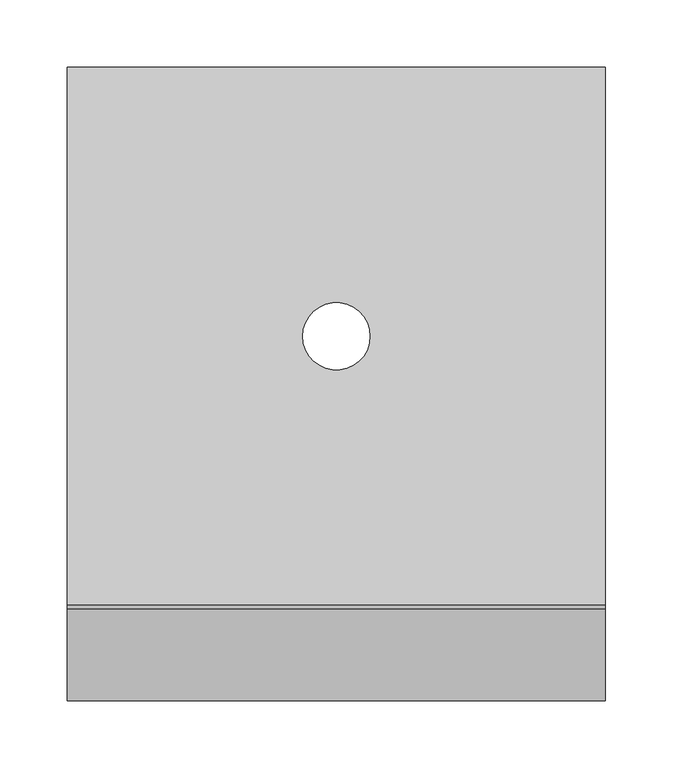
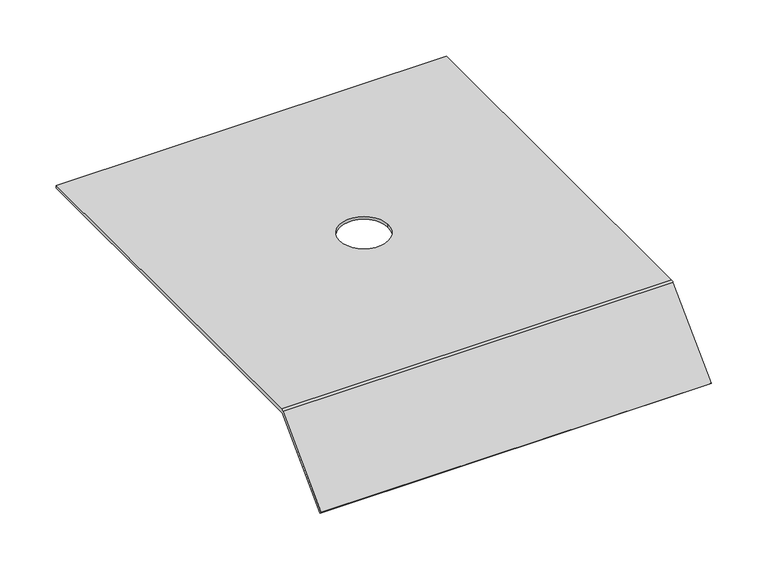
"""IFC4 building model written with IfcOpenShell, lengths in millimetres: proxy geometry, Electrical_Installation_Hager_Covers-With-Installation-Opening-GBZ : Electrical_Installation_Hager_Covers-With-Installation-Opening-GBZ."""

from ifc_helpers import new_model, si_unit, frame, origin, place, context, project, spatial, polyline, circle_curve, source, transform, mapped, element, save
from ifc_brep_helpers import plane_surface, cylinder_surface, revolved_surface, advanced_brep


def electrical_fixtures_ac32d23e(model_context):
    return source(origin(), model_context, "Body", "AdvancedBrep", [
        advanced_brep(
        [(0.0, 200.0, 40.5), (0.0, 200.0, 37.5), (0.0, -199.8229541, 37.5), (0.0, -200.8322972, 37.0819164), (0.0, -268.712807, -30.7985934), (0.0, -270.8341273, -28.6772731), (0.0, -202.8206472, 39.336207), (0.0, -200.0110025, 40.5), (400.0, 200.0, 40.5), (400.0, -200.0110025, 40.5), (400.0, -202.8206472, 39.336207), (400.0, -270.8341273, -28.6772731), (400.0, -268.712807, -30.7985934), (400.0, -200.8322972, 37.0819164), (400.0, -199.8229541, 37.5), (400.0, 200.0, 37.5), (175.0, 0.0, 37.5), (225.0, 0.0, 37.5), (225.0, 0.0, 40.5), (175.0, 0.0, 40.5)],
        [
            (0, 1),
            (1, 2),
            (2, 3, circle_curve(frame((0.0, -199.8229541, 36.0725733), z_axis=(1.0, 0.0, 0.0), x_axis=(0.0, 1.0, 0.0)), 1.4274267)),
            (3, 4),
            (4, 5),
            (5, 6),
            (6, 7, circle_curve(frame((0.0, -200.0110025, 36.5265623), z_axis=(-1.0, 0.0, 0.0), x_axis=(0.0, 1.0, 0.0)), 3.9734377)),
            (7, 0),
            (8, 9),
            (9, 10, circle_curve(frame((400.0, -200.0110025, 36.5265623), z_axis=(1.0, 0.0, 0.0), x_axis=(0.0, 1.0, 0.0)), 3.9734377)),
            (10, 11),
            (11, 12),
            (12, 13),
            (13, 14, circle_curve(frame((400.0, -199.8229541, 36.0725733), z_axis=(-1.0, 0.0, 0.0), x_axis=(0.0, 1.0, 0.0)), 1.4274267)),
            (14, 15),
            (15, 8),
            (0, 8),
            (15, 1),
            (14, 2),
            (16, 17, circle_curve(frame((200.0, 0.0, 37.5), z_axis=(0.0, 0.0, 1.0), x_axis=(1.0, 0.0, 0.0)), 25.0)),
            (17, 16, circle_curve(frame((200.0, 0.0, 37.5), z_axis=(0.0, 0.0, 1.0), x_axis=(1.0, 0.0, 0.0)), 25.0)),
            (13, 3),
            (12, 4),
            (11, 5),
            (10, 6),
            (9, 7),
            (18, 19, circle_curve(frame((200.0, 0.0, 40.5), z_axis=(0.0, 0.0, -1.0), x_axis=(1.0, 0.0, 0.0)), 25.0)),
            (19, 18, circle_curve(frame((200.0, 0.0, 40.5), z_axis=(0.0, 0.0, -1.0), x_axis=(1.0, 0.0, 0.0)), 25.0)),
            (16, 19),
            (18, 17),
        ],
        [
            plane_surface(frame((0.0, 0.3269864, 15.0), z_axis=(-1.0, 0.0, 0.0), x_axis=(0.0, 0.0, 1.0))),
            plane_surface(frame((400.0, 0.3269864, 15.0), z_axis=(1.0, 0.0, 0.0), x_axis=(0.0, 0.0, 1.0))),
            plane_surface(frame((0.0, 200.0, 40.5), z_axis=(0.0, 1.0, 0.0), x_axis=(1.0, 0.0, 0.0))),
            plane_surface(frame((0.0, 200.0, 37.5), z_axis=(0.0, 0.0, -1.0), x_axis=(1.0, 0.0, 0.0))),
            revolved_surface(polyline([(400.0, -198.3955274, 36.0725733), (0.0, -198.3955274, 36.0725733)]), (0.0, -199.8229541, 36.0725733), (1.0, 0.0, 0.0)),
            plane_surface(frame((0.0, -200.8322972, 37.0819164), z_axis=(0.0, 0.7071067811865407, -0.7071067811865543), x_axis=(1.0, 0.0, 0.0))),
            plane_surface(frame((0.0, -268.712807, -30.7985934), z_axis=(0.0, -0.7071067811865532, -0.7071067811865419), x_axis=(1.0, 0.0, 0.0))),
            plane_surface(frame((0.0, -270.8341273, -28.6772731), z_axis=(0.0, -0.7071067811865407, 0.7071067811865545), x_axis=(1.0, 0.0, 0.0))),
            cylinder_surface(frame((0.0, -200.0110025, 36.5265623), z_axis=(-1.0, 0.0, 0.0), x_axis=(0.0, 1.0, 0.0)), 3.9734377),
            plane_surface(frame((0.0, -200.0110025, 40.5), z_axis=(0.0, 0.0, 1.0), x_axis=(1.0, 0.0, 0.0))),
            revolved_surface(polyline([(225.0, 0.0, 40.5), (225.0, 0.0, 37.5)]), (200.0, 0.0, 0.0), (0.0, 0.0, 1.0)),
        ],
        [
            (0, [[1, 2, 3, 4, 5, 6, 7, 8]]),
            (1, [[9, 10, 11, 12, 13, 14, 15, 16]]),
            (2, [[-1, 17, -16, 18]]),
            (3, [[-2, -18, -15, 19], [20, 21]]),
            (4, [[-3, -19, -14, 22]]),
            (5, [[-4, -22, -13, 23]]),
            (6, [[-5, -23, -12, 24]]),
            (7, [[-6, -24, -11, 25]]),
            (8, [[-7, -25, -10, 26]]),
            (9, [[-8, -26, -9, -17], [27, 28]]),
            (10, [[29, -27, 30, -20]]),
            (10, [[-29, -21, -30, -28]]),
        ],
    ),
    ])


if __name__ == "__main__":
    model = new_model("IFC4")
    model_context = context("Model", 3, world=origin())
    ifc_project = project(units=[si_unit("LENGTHUNIT", "METRE", prefix="MILLI")], contexts=[model_context])
    site = spatial("IfcSite", under=ifc_project)
    building = spatial("IfcBuilding", under=site)
    placement = place(None, origin())
    electrical_fixtures_shape = electrical_fixtures_ac32d23e(model_context)
    element("IfcBuildingElementProxy", 1, Name="Electrical_Installation_Hager_Covers-With-Installation-Opening-GBZ : Electrical_Installation_Hager_Covers-With-Installation-Opening-GBZ", ObjectType="Electrical_Installation_Hager_Covers-With-Installation-Opening-GBZ : Electrical_Installation_Hager_Covers-With-Installation-Opening-GBZ", at=placement, inside=building, context=model_context, shape_type="MappedRepresentation", body=[
        mapped(electrical_fixtures_shape, transform((0.0, 0.0, 0.0), x_axis=(1.0, 0.0, 0.0), y_axis=(0.0, 1.0, 0.0), z_axis=(0.0, 0.0, 1.0))),
    ])
    save(model, "model.ifc")
